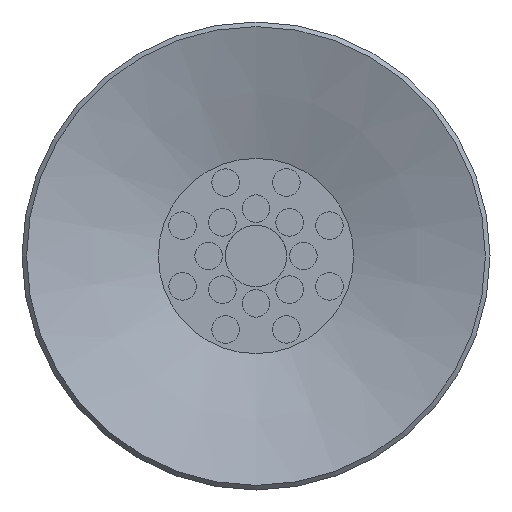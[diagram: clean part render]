
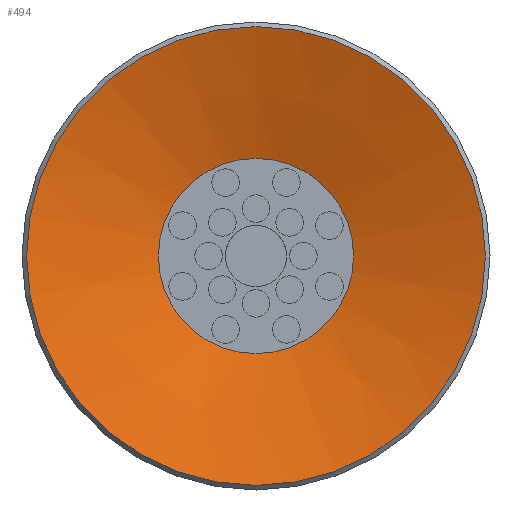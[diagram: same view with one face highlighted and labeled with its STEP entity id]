
A CAD part, front view. The second image highlights one B-rep face of the part: STEP entity #494.
In plain terms, the highlighted conical face has half-angle 72 degrees and reference radius 7.5 mm.
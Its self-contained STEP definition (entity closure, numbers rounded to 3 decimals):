
#494=ADVANCED_FACE('',(#788,#789),#790,.F.);
#788=FACE_BOUND('',#1150,.T.);
#789=FACE_OUTER_BOUND('',#1151,.T.);
#790=CONICAL_SURFACE('',#1152,7.5,1.257);
#1150=EDGE_LOOP('',(#1897));
#1151=EDGE_LOOP('',(#1898));
#1152=AXIS2_PLACEMENT_3D('',#1899,#1900,#1901);
#1897=ORIENTED_EDGE('',*,*,#2269,.T.);
#1898=ORIENTED_EDGE('',*,*,#2270,.F.);
#1899=CARTESIAN_POINT('',(0.0,0.,0.));
#1900=DIRECTION('',(0.0,0.,-1.0));
#1901=DIRECTION('',(0.0,1.0,0.));
#2269=EDGE_CURVE('',#2610,#2610,#2611,.T.);
#2270=EDGE_CURVE('',#2612,#2612,#2613,.T.);
#2610=VERTEX_POINT('',#3364);
#2611=CIRCLE('',#3365,3.191);
#2612=VERTEX_POINT('',#3366);
#2613=CIRCLE('',#3367,7.5);
#3364=CARTESIAN_POINT('',(0.0,-3.191,1.4));
#3365=AXIS2_PLACEMENT_3D('',#3721,#3722,#3723);
#3366=CARTESIAN_POINT('',(0.0,-7.5,0.));
#3367=AXIS2_PLACEMENT_3D('',#3724,#3725,#3726);
#3721=CARTESIAN_POINT('',(0.0,0.,1.4));
#3722=DIRECTION('',(0.0,0.,1.0));
#3723=DIRECTION('',(0.0,-1.0,0.));
#3724=CARTESIAN_POINT('',(0.0,0.,0.));
#3725=DIRECTION('',(0.0,0.,1.0));
#3726=DIRECTION('',(0.0,-1.0,0.));
